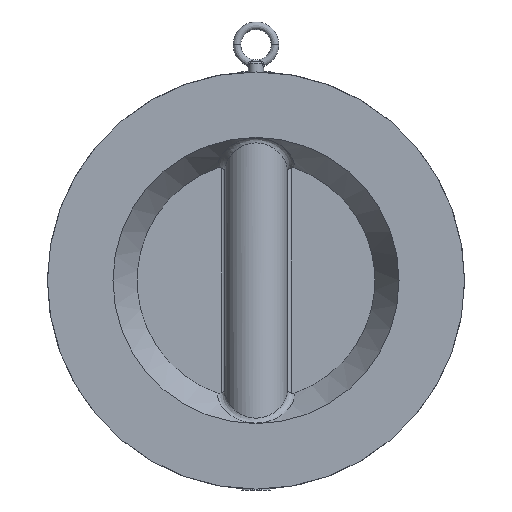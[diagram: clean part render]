
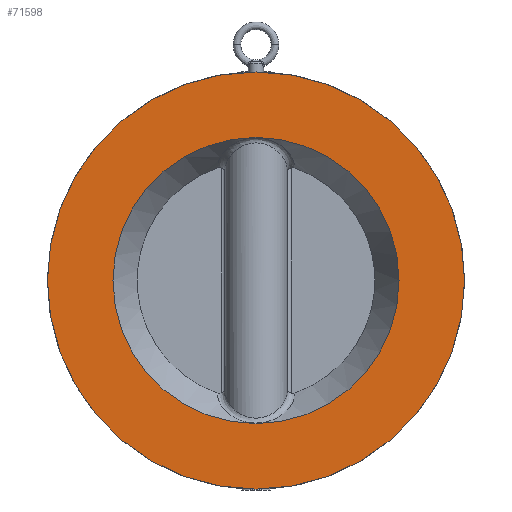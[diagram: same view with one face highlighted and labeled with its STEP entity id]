
A CAD part, front view. The second image highlights one B-rep face of the part: STEP entity #71598.
In plain terms, the highlighted planar face has unit normal (0, -1, 0).
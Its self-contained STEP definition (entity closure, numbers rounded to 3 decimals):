
#59 = CARTESIAN_POINT ( 'NONE',  ( 0., 0., 0. ) ) ;
#1390 = DIRECTION ( 'NONE',  ( 0., 0., -1. ) ) ;
#5996 = EDGE_LOOP ( 'NONE', ( #105637, #111418 ) ) ;
#6079 = PLANE ( 'NONE',  #17216 ) ;
#8746 = CARTESIAN_POINT ( 'NONE',  ( 0., 0., 110. ) ) ;
#9492 = AXIS2_PLACEMENT_3D ( 'NONE', #59, #71944, #10381 ) ;
#10381 = DIRECTION ( 'NONE',  ( 0., 0., -1. ) ) ;
#10414 = EDGE_LOOP ( 'NONE', ( #29102, #57058 ) ) ;
#14461 = CIRCLE ( 'NONE', #18507, 75.452 ) ;
#14540 = VERTEX_POINT ( 'NONE', #56044 ) ;
#17216 = AXIS2_PLACEMENT_3D ( 'NONE', #128265, #26777, #98623 ) ;
#18507 = AXIS2_PLACEMENT_3D ( 'NONE', #60738, #132599, #71074 ) ;
#26089 = CARTESIAN_POINT ( 'NONE',  ( 0., 0., -75.452 ) ) ;
#26777 = DIRECTION ( 'NONE',  ( 0., -1., 0. ) ) ;
#29102 = ORIENTED_EDGE ( 'NONE', *, *, #131840, .T. ) ;
#31120 = CARTESIAN_POINT ( 'NONE',  ( 0., 0., 0. ) ) ;
#31381 = EDGE_CURVE ( 'NONE', #42240, #61112, #78368, .T. ) ;
#41450 = DIRECTION ( 'NONE',  ( 0., 0., -1. ) ) ;
#42240 = VERTEX_POINT ( 'NONE', #8746 ) ;
#42517 = FACE_OUTER_BOUND ( 'NONE', #10414, .T. ) ;
#56044 = CARTESIAN_POINT ( 'NONE',  ( 0., 0., 75.452 ) ) ;
#57058 = ORIENTED_EDGE ( 'NONE', *, *, #31381, .T. ) ;
#60738 = CARTESIAN_POINT ( 'NONE',  ( 0., 0., 0. ) ) ;
#61112 = VERTEX_POINT ( 'NONE', #117249 ) ;
#62931 = DIRECTION ( 'NONE',  ( 0., -1., 0. ) ) ;
#71074 = DIRECTION ( 'NONE',  ( 0., 0., -1. ) ) ;
#71598 = ADVANCED_FACE ( 'NONE', ( #100378, #42517 ), #6079, .T. ) ;
#71944 = DIRECTION ( 'NONE',  ( 0., 1., 0. ) ) ;
#77836 = EDGE_CURVE ( 'NONE', #14540, #79591, #111434, .T. ) ;
#78368 = CIRCLE ( 'NONE', #132780, 110. ) ;
#79591 = VERTEX_POINT ( 'NONE', #26089 ) ;
#98623 = DIRECTION ( 'NONE',  ( 0., 0., -1. ) ) ;
#100378 = FACE_BOUND ( 'NONE', #5996, .T. ) ;
#102964 = DIRECTION ( 'NONE',  ( 0., -1., 0. ) ) ;
#105637 = ORIENTED_EDGE ( 'NONE', *, *, #113999, .T. ) ;
#110999 = AXIS2_PLACEMENT_3D ( 'NONE', #124454, #62931, #1390 ) ;
#111418 = ORIENTED_EDGE ( 'NONE', *, *, #77836, .T. ) ;
#111434 = CIRCLE ( 'NONE', #9492, 75.452 ) ;
#113999 = EDGE_CURVE ( 'NONE', #79591, #14540, #14461, .T. ) ;
#117249 = CARTESIAN_POINT ( 'NONE',  ( 0., 0., -110. ) ) ;
#124454 = CARTESIAN_POINT ( 'NONE',  ( 0., 0., 0. ) ) ;
#128136 = CIRCLE ( 'NONE', #110999, 110. ) ;
#128265 = CARTESIAN_POINT ( 'NONE',  ( 0., 0., 0. ) ) ;
#131840 = EDGE_CURVE ( 'NONE', #61112, #42240, #128136, .T. ) ;
#132599 = DIRECTION ( 'NONE',  ( 0., 1., 0. ) ) ;
#132780 = AXIS2_PLACEMENT_3D ( 'NONE', #31120, #102964, #41450 ) ;
